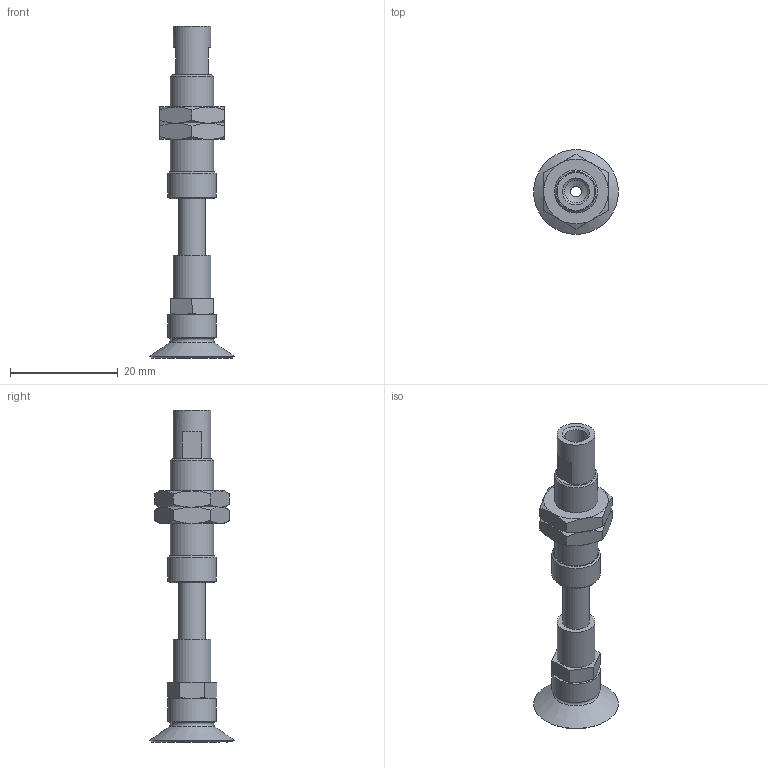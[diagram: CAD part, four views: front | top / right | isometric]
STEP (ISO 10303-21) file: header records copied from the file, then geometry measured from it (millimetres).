
FILE_DESCRIPTION(('STEP AP203'),'1');
FILE_NAME('-PE.stp','2025-04-11T08:38:25',(' '),(' '),'Spatial InterOp 3D',' ',' ');
FILE_SCHEMA(('CONFIG_CONTROL_DESIGN'));
Length unit declared in the file: millimetre
Products named in the file (8): BNABPFTS-15A-10-※-PE; ZIG; BODY; NUT; TN-PS-10-M5; Setting screws-TN-PS-10-M5; BPFG-15A-※
Assembly tree (7 placements, depth 3):
  BNABPFTS-15A-10-※-PE
    ZIG
    BODY
    NUT
    NUT
    TN-PS-10-M5
      Setting screws-TN-PS-10-M5
    BPFG-15A-※
Bounding box: 15.7 x 15.7 x 61.5 mm (x, y, z)
Volume: 2822.7 mm3; surface area: 4192.5 mm2
Topology: 6 solids, 6 shells, 137 faces, 285 edges, 172 vertices
Faces by surface type: plane 58, cone 47, cylinder 23, torus 8, bspline 1
Full cylindrical faces by diameter (mm): 2 x3, 3.9 x1, 4 x4, 4.2 x2, 5 x3, 5.2 x1, 6 x2, 7 x2, 7.25 x2, 8 x1, 9 x2
Entity records: 3761 total; most frequent: CARTESIAN_POINT 741, DIRECTION 562, ORIENTED_EDGE 448, AXIS2_PLACEMENT_3D 253, EDGE_CURVE 224, EDGE_LOOP 210, FACE_OUTER_BOUND 169, VERTEX_POINT 160
